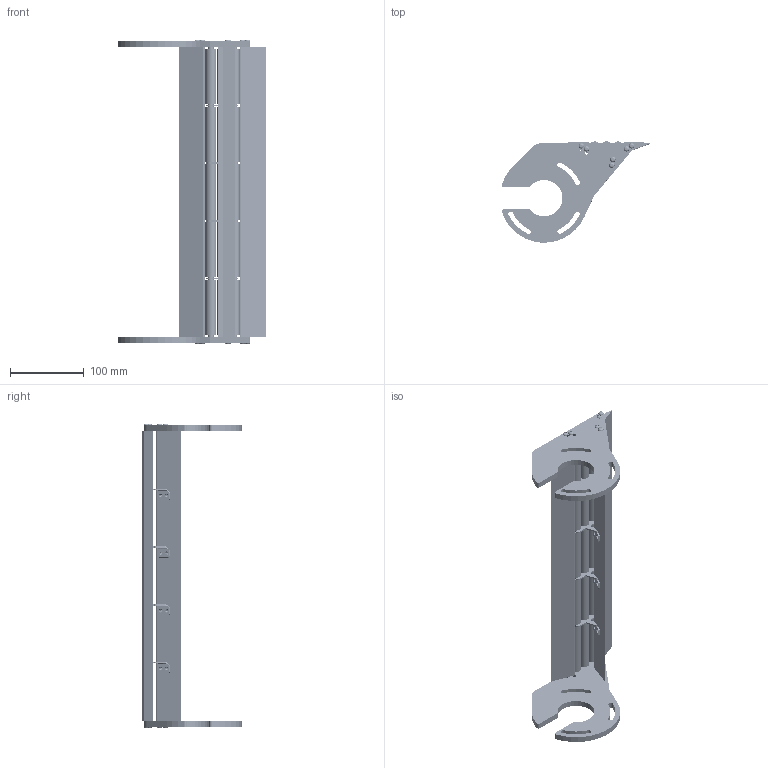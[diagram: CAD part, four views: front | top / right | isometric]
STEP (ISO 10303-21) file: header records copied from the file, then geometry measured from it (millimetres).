
FILE_DESCRIPTION (( 'STEP AP214' ), '1' );
FILE_NAME ('CAB 15 TGRI 2.STEP', '2024-02-27T08:05:31', ( '' ), ( '' ), 'SwSTEP 2.0', 'SolidWorks 2022', '' );
FILE_SCHEMA (( 'AUTOMOTIVE_DESIGN' ));
Length unit declared in the file: millimetre
Products named in the file (15): AXE TGRI CAB 15; PSTI CAB 2 Symétrie; ROULEMENT TGRI CAB FLEXTOO; ENTRETOISE SA TGRI; SA TGRI; Galet + roulement CAB 15; PSTI CAB 2; SA TGRI + ENTRETOISE; PT-F2 - CAB 15; Insert M4 TB; CAB 15 TGRI 2; ENTRETOISE TGRI CAB-F2-R-HEF; PT-F2 - CAB 15 percé; GR CAB 15; TBHC 4X16
Assembly tree (60 placements, depth 3):
  CAB 15 TGRI 2
    PSTI CAB 2 Symétrie
    PSTI CAB 2
    PT-F2 - CAB 15  x2
    AXE TGRI CAB 15  x3
    ENTRETOISE TGRI CAB-F2-R-HEF  x6
    SA TGRI + ENTRETOISE  x4
      SA TGRI
      ENTRETOISE SA TGRI
    PT-F2 - CAB 15 percé
    Galet + roulement CAB 15  x15
      GR CAB 15
      ROULEMENT TGRI CAB FLEXTOO
    TBHC 4X16  x12
    Insert M4 TB  x8
Bounding box: 200.67 x 136.6 x 412.78 mm (x, y, z)
Volume: 681491.3 mm3; surface area: 308167 mm2
Topology: 95 solids, 95 shells, 3647 faces, 7997 edges, 4654 vertices
Faces by surface type: cone 1560, cylinder 1024, plane 555, torus 436, sphere 52, bspline 20
Entity records: 19098 total; most frequent: CARTESIAN_POINT 3492, DIRECTION 3389, ORIENTED_EDGE 2784, EDGE_CURVE 1392, AXIS2_PLACEMENT_3D 1379, VERTEX_POINT 843, CIRCLE 723, EDGE_LOOP 665
